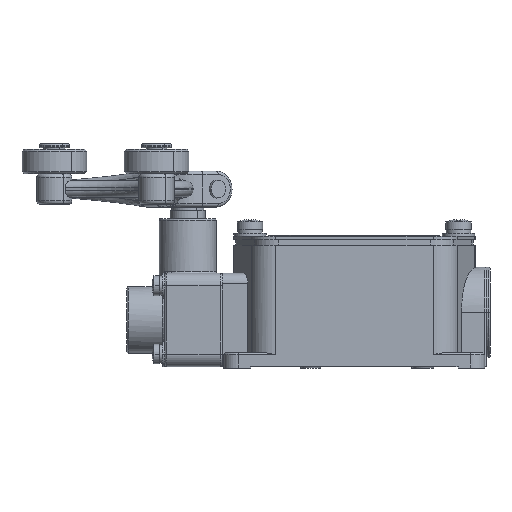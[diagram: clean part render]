
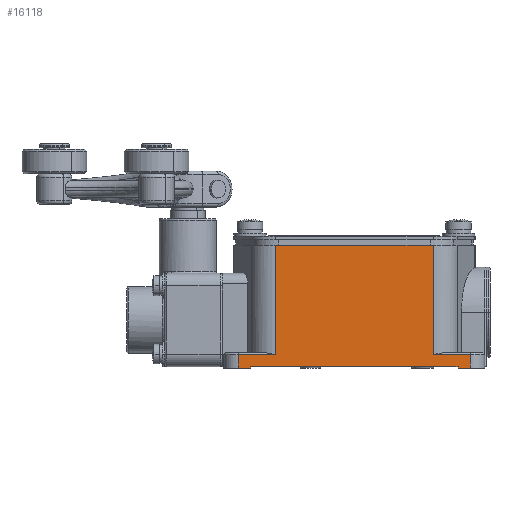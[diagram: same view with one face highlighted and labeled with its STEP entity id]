
A CAD part, front view. The second image highlights one B-rep face of the part: STEP entity #16118.
In plain terms, the highlighted planar face has unit normal (0, -1, 0).
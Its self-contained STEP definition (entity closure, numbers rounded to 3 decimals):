
#2148=DIRECTION('',(1.,0.,0.));
#2149=VECTOR('',#2148,57.7);
#2150=CARTESIAN_POINT('',(-28.85,-21.1,0.));
#2151=LINE('',#2150,#2149);
#2320=DIRECTION('',(0.,0.,-1.));
#2321=VECTOR('',#2320,0.4);
#2322=CARTESIAN_POINT('',(28.85,-21.1,0.));
#2323=LINE('',#2322,#2321);
#2324=DIRECTION('',(1.,0.,0.));
#2325=VECTOR('',#2324,10.326);
#2326=CARTESIAN_POINT('',(21.924,-21.1,3.3));
#2327=LINE('',#2326,#2325);
#2328=DIRECTION('',(0.,0.,1.));
#2329=VECTOR('',#2328,3.7);
#2330=CARTESIAN_POINT('',(32.25,-21.1,-0.4));
#2331=LINE('',#2330,#2329);
#2332=DIRECTION('',(0.,0.,-1.));
#2333=VECTOR('',#2332,0.4);
#2334=CARTESIAN_POINT('',(-28.85,-21.1,0.));
#2335=LINE('',#2334,#2333);
#2336=DIRECTION('',(0.,0.,-1.));
#2337=VECTOR('',#2336,3.7);
#2338=CARTESIAN_POINT('',(-32.25,-21.1,3.3));
#2339=LINE('',#2338,#2337);
#2340=DIRECTION('',(1.,0.,0.));
#2341=VECTOR('',#2340,10.326);
#2342=CARTESIAN_POINT('',(-32.25,-21.1,3.3));
#2343=LINE('',#2342,#2341);
#2418=DIRECTION('',(-1.,0.,0.));
#2419=VECTOR('',#2418,3.4);
#2420=CARTESIAN_POINT('',(32.25,-21.1,-0.4));
#2421=LINE('',#2420,#2419);
#2445=DIRECTION('',(0.,0.,1.));
#2446=VECTOR('',#2445,30.5);
#2447=CARTESIAN_POINT('',(21.924,-21.1,3.3));
#2448=LINE('',#2447,#2446);
#2472=DIRECTION('',(1.,0.,0.));
#2473=VECTOR('',#2472,43.849);
#2474=CARTESIAN_POINT('',(-21.924,-21.1,33.8));
#2475=LINE('',#2474,#2473);
#2635=DIRECTION('',(0.,0.,-1.));
#2636=VECTOR('',#2635,30.5);
#2637=CARTESIAN_POINT('',(-21.924,-21.1,33.8));
#2638=LINE('',#2637,#2636);
#2723=DIRECTION('',(-1.,0.,0.));
#2724=VECTOR('',#2723,3.4);
#2725=CARTESIAN_POINT('',(-28.85,-21.1,-0.4));
#2726=LINE('',#2725,#2724);
#10996=CARTESIAN_POINT('',(28.85,-21.1,-0.4));
#10998=VERTEX_POINT('',#10996);
#11010=CARTESIAN_POINT('',(-28.85,-21.1,-0.4));
#11011=VERTEX_POINT('',#11010);
#11028=CARTESIAN_POINT('',(28.85,-21.1,0.));
#11030=VERTEX_POINT('',#11028);
#11042=CARTESIAN_POINT('',(-28.85,-21.1,0.));
#11043=VERTEX_POINT('',#11042);
#11100=CARTESIAN_POINT('',(-21.924,-21.1,33.8));
#11101=VERTEX_POINT('',#11100);
#11102=CARTESIAN_POINT('',(21.924,-21.1,33.8));
#11104=VERTEX_POINT('',#11102);
#11109=CARTESIAN_POINT('',(32.25,-21.1,-0.4));
#11111=VERTEX_POINT('',#11109);
#11120=CARTESIAN_POINT('',(-32.25,-21.1,-0.4));
#11122=VERTEX_POINT('',#11120);
#11263=CARTESIAN_POINT('',(32.25,-21.1,3.3));
#11264=VERTEX_POINT('',#11263);
#11267=CARTESIAN_POINT('',(21.924,-21.1,3.3));
#11268=VERTEX_POINT('',#11267);
#11297=CARTESIAN_POINT('',(-32.25,-21.1,3.3));
#11298=CARTESIAN_POINT('',(-21.924,-21.1,3.3));
#11299=VERTEX_POINT('',#11297);
#11300=VERTEX_POINT('',#11298);
#16089=CARTESIAN_POINT('',(-36.25,-21.1,0.));
#16090=DIRECTION('',(0.,-1.,0.));
#16091=DIRECTION('',(1.,0.,0.));
#16092=AXIS2_PLACEMENT_3D('',#16089,#16090,#16091);
#16093=PLANE('',#16092);
#16095=ORIENTED_EDGE('',*,*,#16094,.T.);
#16097=ORIENTED_EDGE('',*,*,#16096,.F.);
#16099=ORIENTED_EDGE('',*,*,#16098,.T.);
#16100=ORIENTED_EDGE('',*,*,#16081,.F.);
#16101=ORIENTED_EDGE('',*,*,#15861,.F.);
#16103=ORIENTED_EDGE('',*,*,#16102,.T.);
#16105=ORIENTED_EDGE('',*,*,#16104,.T.);
#16107=ORIENTED_EDGE('',*,*,#16106,.F.);
#16109=ORIENTED_EDGE('',*,*,#16108,.T.);
#16111=ORIENTED_EDGE('',*,*,#16110,.F.);
#16113=ORIENTED_EDGE('',*,*,#16112,.T.);
#16115=ORIENTED_EDGE('',*,*,#16114,.F.);
#16116=EDGE_LOOP('',(#16095,#16097,#16099,#16100,#16101,#16103,#16105,#16107,
#16109,#16111,#16113,#16115));
#16117=FACE_OUTER_BOUND('',#16116,.F.);
#16118=ADVANCED_FACE('',(#16117),#16093,.T.);
#15861=EDGE_CURVE('',#11043,#11030,#2151,.T.);
#16081=EDGE_CURVE('',#11030,#10998,#2323,.T.);
#16094=EDGE_CURVE('',#11268,#11264,#2327,.T.);
#16096=EDGE_CURVE('',#11111,#11264,#2331,.T.);
#16098=EDGE_CURVE('',#11111,#10998,#2421,.T.);
#16102=EDGE_CURVE('',#11043,#11011,#2335,.T.);
#16104=EDGE_CURVE('',#11011,#11122,#2726,.T.);
#16106=EDGE_CURVE('',#11299,#11122,#2339,.T.);
#16108=EDGE_CURVE('',#11299,#11300,#2343,.T.);
#16110=EDGE_CURVE('',#11101,#11300,#2638,.T.);
#16112=EDGE_CURVE('',#11101,#11104,#2475,.T.);
#16114=EDGE_CURVE('',#11268,#11104,#2448,.T.);
